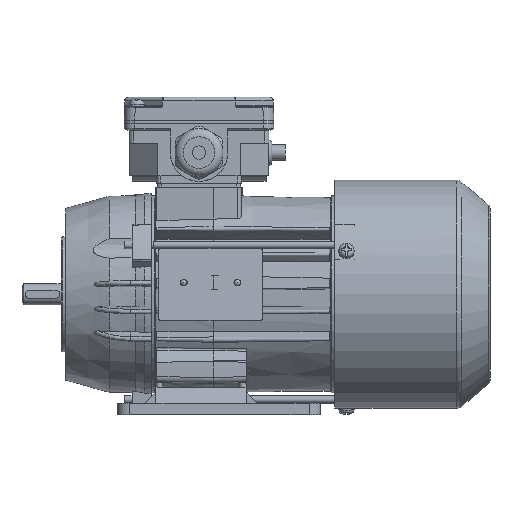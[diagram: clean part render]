
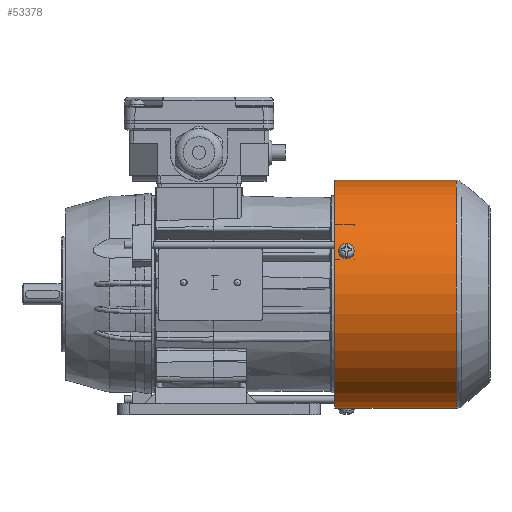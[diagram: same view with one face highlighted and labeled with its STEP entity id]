
A CAD part, front view. The second image highlights one B-rep face of the part: STEP entity #53378.
In plain terms, the highlighted cylindrical face has radius 59.6 mm (diameter 119.2 mm), a full revolution.
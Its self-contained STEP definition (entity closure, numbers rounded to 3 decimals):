
#1224=B_SPLINE_CURVE_WITH_KNOTS('',3,(#80580,#80581,#80582,#80583,#80584,
#80585,#80586),.UNSPECIFIED.,.F.,.F.,(4,1,1,1,4),(0.,
0.002,0.004,0.006,0.007),
 .UNSPECIFIED.);
#1225=B_SPLINE_CURVE_WITH_KNOTS('',3,(#80588,#80589,#80590,#80591,#80592,
#80593,#80594),.UNSPECIFIED.,.F.,.F.,(4,1,1,1,4),(0.,
0.002,0.004,0.006,0.007),
 .UNSPECIFIED.);
#1226=B_SPLINE_CURVE_WITH_KNOTS('',3,(#80600,#80601,#80602,#80603,#80604,
#80605,#80606),.UNSPECIFIED.,.F.,.F.,(4,1,1,1,4),(0.,0.002,
0.004,0.006,0.008),
 .UNSPECIFIED.);
#1227=B_SPLINE_CURVE_WITH_KNOTS('',3,(#80614,#80615,#80616,#80617,#80618,
#80619,#80620),.UNSPECIFIED.,.F.,.F.,(4,1,1,1,4),(0.,
0.002,0.004,0.006,0.008),
 .UNSPECIFIED.);
#1228=B_SPLINE_CURVE_WITH_KNOTS('',3,(#80631,#80632,#80633,#80634,#80635,
#80636,#80637),.UNSPECIFIED.,.F.,.F.,(4,1,1,1,4),(0.,0.002,
0.004,0.006,0.008),
 .UNSPECIFIED.);
#1229=B_SPLINE_CURVE_WITH_KNOTS('',3,(#80645,#80646,#80647,#80648,#80649,
#80650,#80651),.UNSPECIFIED.,.F.,.F.,(4,1,1,1,4),(0.,0.002,
0.004,0.006,0.008),
 .UNSPECIFIED.);
#16126=ORIENTED_EDGE('',*,*,#23703,.T.);
#16127=ORIENTED_EDGE('',*,*,#23701,.T.);
#16128=ORIENTED_EDGE('',*,*,#23706,.T.);
#16129=ORIENTED_EDGE('',*,*,#23705,.T.);
#16130=ORIENTED_EDGE('',*,*,#23697,.F.);
#16131=ORIENTED_EDGE('',*,*,#23698,.F.);
#16132=ORIENTED_EDGE('',*,*,#23712,.T.);
#16133=ORIENTED_EDGE('',*,*,#23710,.T.);
#16134=ORIENTED_EDGE('',*,*,#23715,.T.);
#16135=ORIENTED_EDGE('',*,*,#23714,.T.);
#16136=ORIENTED_EDGE('',*,*,#23799,.F.);
#16137=ORIENTED_EDGE('',*,*,#23707,.T.);
#23697=EDGE_CURVE('',#28102,#28101,#1224,.T.);
#23698=EDGE_CURVE('',#28101,#28102,#1225,.T.);
#23701=EDGE_CURVE('',#28163,#28164,#1226,.T.);
#23703=EDGE_CURVE('',#28165,#28163,#30451,.F.);
#23705=EDGE_CURVE('',#28166,#28165,#1227,.T.);
#23706=EDGE_CURVE('',#28164,#28166,#30452,.F.);
#23707=EDGE_CURVE('',#28167,#28167,#30453,.F.);
#23710=EDGE_CURVE('',#28168,#28169,#1228,.T.);
#23712=EDGE_CURVE('',#28170,#28168,#30454,.F.);
#23714=EDGE_CURVE('',#28171,#28170,#1229,.T.);
#23715=EDGE_CURVE('',#28169,#28171,#30455,.F.);
#23799=EDGE_CURVE('',#28238,#28238,#30492,.T.);
#28101=VERTEX_POINT('',#79209);
#28102=VERTEX_POINT('',#79210);
#28163=VERTEX_POINT('',#80597);
#28164=VERTEX_POINT('',#80599);
#28165=VERTEX_POINT('',#80609);
#28166=VERTEX_POINT('',#80613);
#28167=VERTEX_POINT('',#80625);
#28168=VERTEX_POINT('',#80628);
#28169=VERTEX_POINT('',#80630);
#28170=VERTEX_POINT('',#80640);
#28171=VERTEX_POINT('',#80644);
#28238=VERTEX_POINT('',#80847);
#30451=CIRCLE('',#56566,59.6);
#30452=CIRCLE('',#56569,59.6);
#30453=CIRCLE('',#56571,59.6);
#30454=CIRCLE('',#56574,59.6);
#30455=CIRCLE('',#56577,59.6);
#30492=CIRCLE('',#56657,59.6);
#32782=EDGE_LOOP('',(#16126,#16127,#16128,#16129));
#32783=EDGE_LOOP('',(#16130,#16131));
#32784=EDGE_LOOP('',(#16132,#16133,#16134,#16135));
#32785=EDGE_LOOP('',(#16136));
#32786=EDGE_LOOP('',(#16137));
#35365=FACE_BOUND('',#32782,.T.);
#35366=FACE_BOUND('',#32783,.T.);
#35367=FACE_BOUND('',#32784,.T.);
#35368=FACE_BOUND('',#32785,.T.);
#35369=FACE_BOUND('',#32786,.T.);
#36694=CYLINDRICAL_SURFACE('',#56656,59.6);
#53378=ADVANCED_FACE('',(#35365,#35366,#35367,#35368,#35369),#36694,.T.);
#56566=AXIS2_PLACEMENT_3D('',#80610,#65046,#65047);
#56569=AXIS2_PLACEMENT_3D('',#80622,#65053,#65054);
#56571=AXIS2_PLACEMENT_3D('',#80624,#65057,#65058);
#56574=AXIS2_PLACEMENT_3D('',#80641,#65066,#65067);
#56577=AXIS2_PLACEMENT_3D('',#80653,#65073,#65074);
#56656=AXIS2_PLACEMENT_3D('',#80845,#65278,#65279);
#56657=AXIS2_PLACEMENT_3D('',#80846,#65280,#65281);
#65046=DIRECTION('',(-1.,0.,0.));
#65047=DIRECTION('',(0.,0.866,-0.5));
#65053=DIRECTION('',(1.,0.,0.));
#65054=DIRECTION('',(0.,-0.866,0.5));
#65057=DIRECTION('',(1.,0.,0.));
#65058=DIRECTION('',(0.,0.,-1.));
#65066=DIRECTION('',(-1.,0.,0.));
#65067=DIRECTION('',(0.,0.,1.));
#65073=DIRECTION('',(1.,0.,0.));
#65074=DIRECTION('',(0.,0.,-1.));
#65278=DIRECTION('',(-1.,0.,0.));
#65279=DIRECTION('',(0.,0.,1.));
#65280=DIRECTION('',(-1.,0.,0.));
#65281=DIRECTION('',(0.,0.,1.));
#79209=CARTESIAN_POINT('',(67.,8.295,-59.02));
#79210=CARTESIAN_POINT('',(72.,8.295,-59.02));
#80580=CARTESIAN_POINT('',(72.,8.295,-59.02));
#80581=CARTESIAN_POINT('',(71.937,7.681,-59.106));
#80582=CARTESIAN_POINT('',(71.356,6.499,-59.249));
#80583=CARTESIAN_POINT('',(69.502,5.777,-59.318));
#80584=CARTESIAN_POINT('',(67.649,6.493,-59.25));
#80585=CARTESIAN_POINT('',(67.063,7.681,-59.106));
#80586=CARTESIAN_POINT('',(67.,8.295,-59.02));
#80588=CARTESIAN_POINT('',(67.,8.295,-59.02));
#80589=CARTESIAN_POINT('',(67.063,8.908,-58.934));
#80590=CARTESIAN_POINT('',(67.644,10.084,-58.746));
#80591=CARTESIAN_POINT('',(69.498,10.797,-58.613));
#80592=CARTESIAN_POINT('',(71.351,10.09,-58.745));
#80593=CARTESIAN_POINT('',(71.937,8.908,-58.934));
#80594=CARTESIAN_POINT('',(72.,8.295,-59.02));
#80597=CARTESIAN_POINT('',(72.,46.437,37.36));
#80599=CARTESIAN_POINT('',(67.,46.437,37.36));
#80600=CARTESIAN_POINT('',(72.,46.437,37.36));
#80601=CARTESIAN_POINT('',(72.,46.023,37.874));
#80602=CARTESIAN_POINT('',(71.458,45.191,38.867));
#80603=CARTESIAN_POINT('',(69.502,44.648,39.479));
#80604=CARTESIAN_POINT('',(67.542,45.19,38.869));
#80605=CARTESIAN_POINT('',(67.,46.023,37.874));
#80606=CARTESIAN_POINT('',(67.,46.437,37.36));
#80609=CARTESIAN_POINT('',(72.,47.484,36.02));
#80610=CARTESIAN_POINT('',(72.,0.,0.));
#80613=CARTESIAN_POINT('',(67.,47.484,36.02));
#80614=CARTESIAN_POINT('',(67.,47.484,36.02));
#80615=CARTESIAN_POINT('',(67.,47.883,35.493));
#80616=CARTESIAN_POINT('',(67.542,48.645,34.446));
#80617=CARTESIAN_POINT('',(69.498,49.108,33.771));
#80618=CARTESIAN_POINT('',(71.458,48.646,34.444));
#80619=CARTESIAN_POINT('',(72.,47.883,35.493));
#80620=CARTESIAN_POINT('',(72.,47.484,36.02));
#80622=CARTESIAN_POINT('',(67.,0.,0.));
#80624=CARTESIAN_POINT('',(126.809,0.,0.));
#80625=CARTESIAN_POINT('',(126.809,0.,-59.6));
#80628=CARTESIAN_POINT('',(72.,-55.573,21.536));
#80630=CARTESIAN_POINT('',(67.,-55.573,21.536));
#80631=CARTESIAN_POINT('',(72.,-55.573,21.536));
#80632=CARTESIAN_POINT('',(72.,-55.812,20.92));
#80633=CARTESIAN_POINT('',(71.458,-56.255,19.703));
#80634=CARTESIAN_POINT('',(69.502,-56.514,18.927));
#80635=CARTESIAN_POINT('',(67.542,-56.256,19.701));
#80636=CARTESIAN_POINT('',(67.,-55.812,20.92));
#80637=CARTESIAN_POINT('',(67.,-55.573,21.536));
#80640=CARTESIAN_POINT('',(72.,-54.936,23.112));
#80641=CARTESIAN_POINT('',(72.,0.,0.));
#80644=CARTESIAN_POINT('',(67.,-54.936,23.112));
#80645=CARTESIAN_POINT('',(67.,-54.936,23.112));
#80646=CARTESIAN_POINT('',(67.,-54.68,23.721));
#80647=CARTESIAN_POINT('',(67.542,-54.154,24.905));
#80648=CARTESIAN_POINT('',(69.498,-53.8,25.643));
#80649=CARTESIAN_POINT('',(71.458,-54.153,24.907));
#80650=CARTESIAN_POINT('',(72.,-54.68,23.721));
#80651=CARTESIAN_POINT('',(72.,-54.936,23.112));
#80653=CARTESIAN_POINT('',(67.,0.,0.));
#80845=CARTESIAN_POINT('',(3.5,0.,0.));
#80846=CARTESIAN_POINT('',(63.5,0.,0.));
#80847=CARTESIAN_POINT('',(63.5,0.,59.6));
